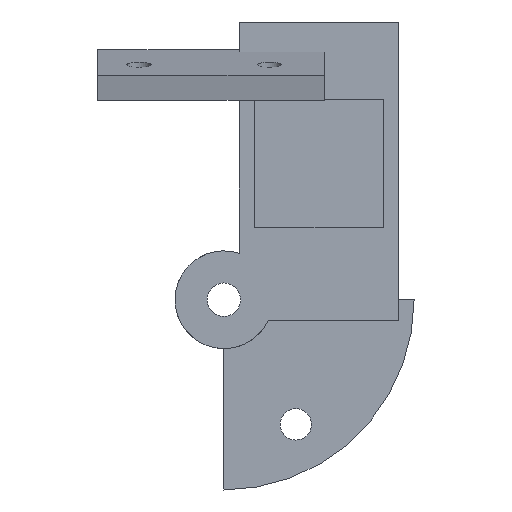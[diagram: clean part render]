
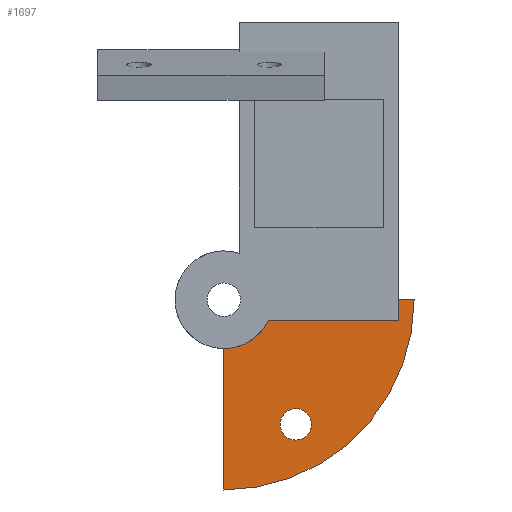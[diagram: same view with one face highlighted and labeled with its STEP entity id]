
A CAD part, left-side view. The second image highlights one B-rep face of the part: STEP entity #1697.
In plain terms, the highlighted planar face has unit normal (-1, 0, 0).
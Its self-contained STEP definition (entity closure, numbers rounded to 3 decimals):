
#634 = PLANE('',#635);
#635 = AXIS2_PLACEMENT_3D('',#636,#637,#638);
#636 = CARTESIAN_POINT('',(19.6,-168.708,-229.));
#637 = DIRECTION('',(0.,1.,0.));
#638 = DIRECTION('',(0.,0.,1.));
#662 = PLANE('',#663);
#663 = AXIS2_PLACEMENT_3D('',#664,#665,#666);
#664 = CARTESIAN_POINT('',(19.6,-168.708,-229.));
#665 = DIRECTION('',(0.,0.,1.));
#666 = DIRECTION('',(1.,0.,0.));
#691 = CYLINDRICAL_SURFACE('',#692,9.5);
#692 = AXIS2_PLACEMENT_3D('',#693,#694,#695);
#693 = CARTESIAN_POINT('',(19.6,-134.708,-225.));
#694 = DIRECTION('',(-1.,-0.,-0.));
#695 = DIRECTION('',(0.,-1.,0.));
#1078 = VERTEX_POINT('',#1079);
#1079 = CARTESIAN_POINT('',(26.5,-168.708,-229.));
#1126 = VERTEX_POINT('',#1127);
#1127 = CARTESIAN_POINT('',(26.5,-168.708,-225.));
#1140 = PLANE('',#1141);
#1141 = AXIS2_PLACEMENT_3D('',#1142,#1143,#1144);
#1142 = CARTESIAN_POINT('',(26.5,-171.708,-225.));
#1143 = DIRECTION('',(0.,0.,1.));
#1144 = DIRECTION('',(1.,0.,0.));
#1151 = EDGE_CURVE('',#1126,#1078,#1152,.T.);
#1152 = SURFACE_CURVE('',#1153,(#1157,#1163),.PCURVE_S1.);
#1153 = LINE('',#1154,#1155);
#1154 = CARTESIAN_POINT('',(26.5,-168.708,-245.5));
#1155 = VECTOR('',#1156,1.);
#1156 = DIRECTION('',(0.,0.,-1.));
#1157 = PCURVE('',#634,#1158);
#1158 = DEFINITIONAL_REPRESENTATION('',(#1159),#1162);
#1159 = B_SPLINE_CURVE_WITH_KNOTS('',1,(#1160,#1161),.UNSPECIFIED.,.F.,
  .F.,(2,2),(-20.5,-16.5),.PIECEWISE_BEZIER_KNOTS.);
#1160 = CARTESIAN_POINT('',(4.,6.9));
#1161 = CARTESIAN_POINT('',(0.,6.9));
#1162 = ( GEOMETRIC_REPRESENTATION_CONTEXT(2) 
PARAMETRIC_REPRESENTATION_CONTEXT() REPRESENTATION_CONTEXT('2D SPACE',''
  ) );
#1163 = PCURVE('',#1164,#1169);
#1164 = PLANE('',#1165);
#1165 = AXIS2_PLACEMENT_3D('',#1166,#1167,#1168);
#1166 = CARTESIAN_POINT('',(26.5,-171.708,-262.));
#1167 = DIRECTION('',(1.,0.,0.));
#1168 = DIRECTION('',(0.,0.,1.));
#1169 = DEFINITIONAL_REPRESENTATION('',(#1170),#1173);
#1170 = B_SPLINE_CURVE_WITH_KNOTS('',1,(#1171,#1172),.UNSPECIFIED.,.F.,
  .F.,(2,2),(-20.5,-16.5),.PIECEWISE_BEZIER_KNOTS.);
#1171 = CARTESIAN_POINT('',(37.,-3.));
#1172 = CARTESIAN_POINT('',(33.,-3.));
#1173 = ( GEOMETRIC_REPRESENTATION_CONTEXT(2) 
PARAMETRIC_REPRESENTATION_CONTEXT() REPRESENTATION_CONTEXT('2D SPACE',''
  ) );
#1180 = EDGE_CURVE('',#1078,#1181,#1183,.T.);
#1181 = VERTEX_POINT('',#1182);
#1182 = CARTESIAN_POINT('',(26.5,-143.325,-229.));
#1183 = SURFACE_CURVE('',#1184,(#1188,#1194),.PCURVE_S1.);
#1184 = LINE('',#1185,#1186);
#1185 = CARTESIAN_POINT('',(26.5,-170.208,-229.));
#1186 = VECTOR('',#1187,1.);
#1187 = DIRECTION('',(0.,1.,0.));
#1188 = PCURVE('',#662,#1189);
#1189 = DEFINITIONAL_REPRESENTATION('',(#1190),#1193);
#1190 = B_SPLINE_CURVE_WITH_KNOTS('',1,(#1191,#1192),.UNSPECIFIED.,.F.,
  .F.,(2,2),(1.5,26.883),.PIECEWISE_BEZIER_KNOTS.);
#1191 = CARTESIAN_POINT('',(6.9,0.));
#1192 = CARTESIAN_POINT('',(6.9,25.383));
#1193 = ( GEOMETRIC_REPRESENTATION_CONTEXT(2) 
PARAMETRIC_REPRESENTATION_CONTEXT() REPRESENTATION_CONTEXT('2D SPACE',''
  ) );
#1194 = PCURVE('',#1164,#1195);
#1195 = DEFINITIONAL_REPRESENTATION('',(#1196),#1199);
#1196 = B_SPLINE_CURVE_WITH_KNOTS('',1,(#1197,#1198),.UNSPECIFIED.,.F.,
  .F.,(2,2),(1.5,26.883),.PIECEWISE_BEZIER_KNOTS.);
#1197 = CARTESIAN_POINT('',(33.,-3.));
#1198 = CARTESIAN_POINT('',(33.,-28.383));
#1199 = ( GEOMETRIC_REPRESENTATION_CONTEXT(2) 
PARAMETRIC_REPRESENTATION_CONTEXT() REPRESENTATION_CONTEXT('2D SPACE',''
  ) );
#1282 = EDGE_CURVE('',#1283,#1181,#1285,.T.);
#1283 = VERTEX_POINT('',#1284);
#1284 = CARTESIAN_POINT('',(26.5,-134.708,-234.5));
#1285 = SURFACE_CURVE('',#1286,(#1291,#1298),.PCURVE_S1.);
#1286 = CIRCLE('',#1287,9.5);
#1287 = AXIS2_PLACEMENT_3D('',#1288,#1289,#1290);
#1288 = CARTESIAN_POINT('',(26.5,-134.708,-225.));
#1289 = DIRECTION('',(-1.,-0.,0.));
#1290 = DIRECTION('',(0.,-1.,0.));
#1291 = PCURVE('',#691,#1292);
#1292 = DEFINITIONAL_REPRESENTATION('',(#1293),#1297);
#1293 = LINE('',#1294,#1295);
#1294 = CARTESIAN_POINT('',(-6.283,-6.9));
#1295 = VECTOR('',#1296,1.);
#1296 = DIRECTION('',(1.,-0.));
#1297 = ( GEOMETRIC_REPRESENTATION_CONTEXT(2) 
PARAMETRIC_REPRESENTATION_CONTEXT() REPRESENTATION_CONTEXT('2D SPACE',''
  ) );
#1298 = PCURVE('',#1164,#1299);
#1299 = DEFINITIONAL_REPRESENTATION('',(#1300),#1308);
#1300 = ( BOUNDED_CURVE() B_SPLINE_CURVE(2,(#1301,#1302,#1303,#1304,
#1305,#1306,#1307),.UNSPECIFIED.,.T.,.F.) B_SPLINE_CURVE_WITH_KNOTS((1,2
    ,2,2,2,1),(-2.094,0.,2.094,4.189,
6.283,8.378),.UNSPECIFIED.) CURVE() 
GEOMETRIC_REPRESENTATION_ITEM() RATIONAL_B_SPLINE_CURVE((1.,0.5,1.,0.5,
1.,0.5,1.)) REPRESENTATION_ITEM('') );
#1301 = CARTESIAN_POINT('',(37.,-27.5));
#1302 = CARTESIAN_POINT('',(53.454,-27.5));
#1303 = CARTESIAN_POINT('',(45.227,-41.75));
#1304 = CARTESIAN_POINT('',(37.,-56.));
#1305 = CARTESIAN_POINT('',(28.773,-41.75));
#1306 = CARTESIAN_POINT('',(20.546,-27.5));
#1307 = CARTESIAN_POINT('',(37.,-27.5));
#1308 = ( GEOMETRIC_REPRESENTATION_CONTEXT(2) 
PARAMETRIC_REPRESENTATION_CONTEXT() REPRESENTATION_CONTEXT('2D SPACE',''
  ) );
#1325 = PLANE('',#1326);
#1326 = AXIS2_PLACEMENT_3D('',#1327,#1328,#1329);
#1327 = CARTESIAN_POINT('',(26.5,-134.708,-262.));
#1328 = DIRECTION('',(0.,1.,0.));
#1329 = DIRECTION('',(0.,0.,1.));
#1697 = ADVANCED_FACE('',(#1698,#1780),#1164,.F.);
#1698 = FACE_BOUND('',#1699,.F.);
#1699 = EDGE_LOOP('',(#1700,#1723,#1756,#1777,#1778,#1779));
#1700 = ORIENTED_EDGE('',*,*,#1701,.F.);
#1701 = EDGE_CURVE('',#1702,#1126,#1704,.T.);
#1702 = VERTEX_POINT('',#1703);
#1703 = CARTESIAN_POINT('',(26.5,-171.708,-225.));
#1704 = SURFACE_CURVE('',#1705,(#1709,#1716),.PCURVE_S1.);
#1705 = LINE('',#1706,#1707);
#1706 = CARTESIAN_POINT('',(26.5,-171.708,-225.));
#1707 = VECTOR('',#1708,1.);
#1708 = DIRECTION('',(0.,1.,0.));
#1709 = PCURVE('',#1164,#1710);
#1710 = DEFINITIONAL_REPRESENTATION('',(#1711),#1715);
#1711 = LINE('',#1712,#1713);
#1712 = CARTESIAN_POINT('',(37.,0.));
#1713 = VECTOR('',#1714,1.);
#1714 = DIRECTION('',(0.,-1.));
#1715 = ( GEOMETRIC_REPRESENTATION_CONTEXT(2) 
PARAMETRIC_REPRESENTATION_CONTEXT() REPRESENTATION_CONTEXT('2D SPACE',''
  ) );
#1716 = PCURVE('',#1140,#1717);
#1717 = DEFINITIONAL_REPRESENTATION('',(#1718),#1722);
#1718 = LINE('',#1719,#1720);
#1719 = CARTESIAN_POINT('',(0.,0.));
#1720 = VECTOR('',#1721,1.);
#1721 = DIRECTION('',(0.,1.));
#1722 = ( GEOMETRIC_REPRESENTATION_CONTEXT(2) 
PARAMETRIC_REPRESENTATION_CONTEXT() REPRESENTATION_CONTEXT('2D SPACE',''
  ) );
#1723 = ORIENTED_EDGE('',*,*,#1724,.F.);
#1724 = EDGE_CURVE('',#1725,#1702,#1727,.T.);
#1725 = VERTEX_POINT('',#1726);
#1726 = CARTESIAN_POINT('',(26.5,-134.708,-262.));
#1727 = SURFACE_CURVE('',#1728,(#1733,#1744),.PCURVE_S1.);
#1728 = CIRCLE('',#1729,37.);
#1729 = AXIS2_PLACEMENT_3D('',#1730,#1731,#1732);
#1730 = CARTESIAN_POINT('',(26.5,-134.708,-225.));
#1731 = DIRECTION('',(-1.,-0.,0.));
#1732 = DIRECTION('',(0.,-1.,0.));
#1733 = PCURVE('',#1164,#1734);
#1734 = DEFINITIONAL_REPRESENTATION('',(#1735),#1743);
#1735 = ( BOUNDED_CURVE() B_SPLINE_CURVE(2,(#1736,#1737,#1738,#1739,
#1740,#1741,#1742),.UNSPECIFIED.,.T.,.F.) B_SPLINE_CURVE_WITH_KNOTS((1,2
    ,2,2,2,1),(-2.094,0.,2.094,4.189,
6.283,8.378),.UNSPECIFIED.) CURVE() 
GEOMETRIC_REPRESENTATION_ITEM() RATIONAL_B_SPLINE_CURVE((1.,0.5,1.,0.5,
1.,0.5,1.)) REPRESENTATION_ITEM('') );
#1736 = CARTESIAN_POINT('',(37.,0.));
#1737 = CARTESIAN_POINT('',(101.086,0.));
#1738 = CARTESIAN_POINT('',(69.043,-55.5));
#1739 = CARTESIAN_POINT('',(37.,-111.));
#1740 = CARTESIAN_POINT('',(4.957,-55.5));
#1741 = CARTESIAN_POINT('',(-27.086,0.));
#1742 = CARTESIAN_POINT('',(37.,0.));
#1743 = ( GEOMETRIC_REPRESENTATION_CONTEXT(2) 
PARAMETRIC_REPRESENTATION_CONTEXT() REPRESENTATION_CONTEXT('2D SPACE',''
  ) );
#1744 = PCURVE('',#1745,#1750);
#1745 = CYLINDRICAL_SURFACE('',#1746,37.);
#1746 = AXIS2_PLACEMENT_3D('',#1747,#1748,#1749);
#1747 = CARTESIAN_POINT('',(26.,-134.708,-225.));
#1748 = DIRECTION('',(-1.,-0.,-0.));
#1749 = DIRECTION('',(0.,-1.,0.));
#1750 = DEFINITIONAL_REPRESENTATION('',(#1751),#1755);
#1751 = LINE('',#1752,#1753);
#1752 = CARTESIAN_POINT('',(-6.283,-0.5));
#1753 = VECTOR('',#1754,1.);
#1754 = DIRECTION('',(1.,-0.));
#1755 = ( GEOMETRIC_REPRESENTATION_CONTEXT(2) 
PARAMETRIC_REPRESENTATION_CONTEXT() REPRESENTATION_CONTEXT('2D SPACE',''
  ) );
#1756 = ORIENTED_EDGE('',*,*,#1757,.T.);
#1757 = EDGE_CURVE('',#1725,#1283,#1758,.T.);
#1758 = SURFACE_CURVE('',#1759,(#1763,#1770),.PCURVE_S1.);
#1759 = LINE('',#1760,#1761);
#1760 = CARTESIAN_POINT('',(26.5,-134.708,-262.));
#1761 = VECTOR('',#1762,1.);
#1762 = DIRECTION('',(0.,0.,1.));
#1763 = PCURVE('',#1164,#1764);
#1764 = DEFINITIONAL_REPRESENTATION('',(#1765),#1769);
#1765 = LINE('',#1766,#1767);
#1766 = CARTESIAN_POINT('',(0.,-37.));
#1767 = VECTOR('',#1768,1.);
#1768 = DIRECTION('',(1.,0.));
#1769 = ( GEOMETRIC_REPRESENTATION_CONTEXT(2) 
PARAMETRIC_REPRESENTATION_CONTEXT() REPRESENTATION_CONTEXT('2D SPACE',''
  ) );
#1770 = PCURVE('',#1325,#1771);
#1771 = DEFINITIONAL_REPRESENTATION('',(#1772),#1776);
#1772 = LINE('',#1773,#1774);
#1773 = CARTESIAN_POINT('',(0.,0.));
#1774 = VECTOR('',#1775,1.);
#1775 = DIRECTION('',(1.,0.));
#1776 = ( GEOMETRIC_REPRESENTATION_CONTEXT(2) 
PARAMETRIC_REPRESENTATION_CONTEXT() REPRESENTATION_CONTEXT('2D SPACE',''
  ) );
#1777 = ORIENTED_EDGE('',*,*,#1282,.T.);
#1778 = ORIENTED_EDGE('',*,*,#1180,.F.);
#1779 = ORIENTED_EDGE('',*,*,#1151,.F.);
#1780 = FACE_BOUND('',#1781,.F.);
#1781 = EDGE_LOOP('',(#1782));
#1782 = ORIENTED_EDGE('',*,*,#1783,.T.);
#1783 = EDGE_CURVE('',#1784,#1784,#1786,.T.);
#1784 = VERTEX_POINT('',#1785);
#1785 = CARTESIAN_POINT('',(26.5,-151.758,-249.249));
#1786 = SURFACE_CURVE('',#1787,(#1792,#1803),.PCURVE_S1.);
#1787 = CIRCLE('',#1788,3.05);
#1788 = AXIS2_PLACEMENT_3D('',#1789,#1790,#1791);
#1789 = CARTESIAN_POINT('',(26.5,-148.708,-249.249));
#1790 = DIRECTION('',(-1.,-0.,0.));
#1791 = DIRECTION('',(0.,-1.,0.));
#1792 = PCURVE('',#1164,#1793);
#1793 = DEFINITIONAL_REPRESENTATION('',(#1794),#1802);
#1794 = ( BOUNDED_CURVE() B_SPLINE_CURVE(2,(#1795,#1796,#1797,#1798,
#1799,#1800,#1801),.UNSPECIFIED.,.T.,.F.) B_SPLINE_CURVE_WITH_KNOTS((1,2
    ,2,2,2,1),(-2.094,0.,2.094,4.189,
6.283,8.378),.UNSPECIFIED.) CURVE() 
GEOMETRIC_REPRESENTATION_ITEM() RATIONAL_B_SPLINE_CURVE((1.,0.5,1.,0.5,
1.,0.5,1.)) REPRESENTATION_ITEM('') );
#1795 = CARTESIAN_POINT('',(12.751,-19.95));
#1796 = CARTESIAN_POINT('',(18.034,-19.95));
#1797 = CARTESIAN_POINT('',(15.393,-24.525));
#1798 = CARTESIAN_POINT('',(12.751,-29.1));
#1799 = CARTESIAN_POINT('',(10.11,-24.525));
#1800 = CARTESIAN_POINT('',(7.469,-19.95));
#1801 = CARTESIAN_POINT('',(12.751,-19.95));
#1802 = ( GEOMETRIC_REPRESENTATION_CONTEXT(2) 
PARAMETRIC_REPRESENTATION_CONTEXT() REPRESENTATION_CONTEXT('2D SPACE',''
  ) );
#1803 = PCURVE('',#1804,#1809);
#1804 = CYLINDRICAL_SURFACE('',#1805,3.05);
#1805 = AXIS2_PLACEMENT_3D('',#1806,#1807,#1808);
#1806 = CARTESIAN_POINT('',(20.,-148.708,-249.249));
#1807 = DIRECTION('',(-1.,-0.,-0.));
#1808 = DIRECTION('',(0.,-1.,0.));
#1809 = DEFINITIONAL_REPRESENTATION('',(#1810),#1814);
#1810 = LINE('',#1811,#1812);
#1811 = CARTESIAN_POINT('',(-6.283,-6.5));
#1812 = VECTOR('',#1813,1.);
#1813 = DIRECTION('',(1.,-0.));
#1814 = ( GEOMETRIC_REPRESENTATION_CONTEXT(2) 
PARAMETRIC_REPRESENTATION_CONTEXT() REPRESENTATION_CONTEXT('2D SPACE',''
  ) );
